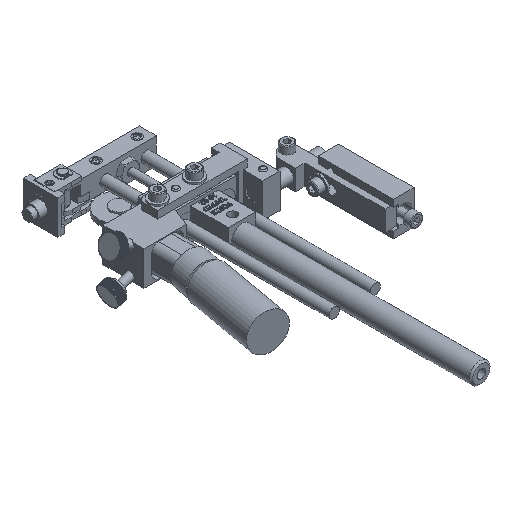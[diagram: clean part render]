
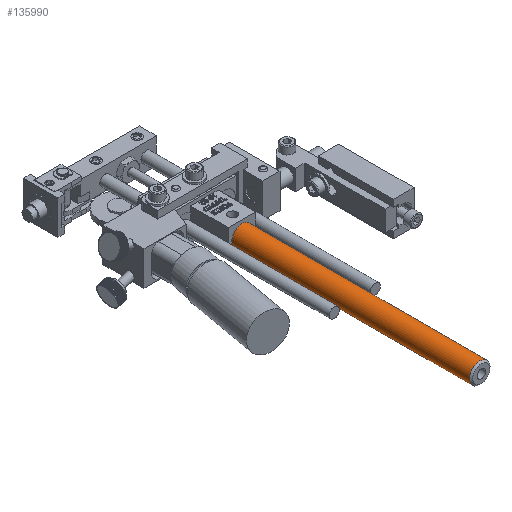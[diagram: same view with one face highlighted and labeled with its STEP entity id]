
A CAD part, isometric view. The second image highlights one B-rep face of the part: STEP entity #135990.
In plain terms, the highlighted cylindrical face has radius 4.763 mm (diameter 9.525 mm), a full revolution.
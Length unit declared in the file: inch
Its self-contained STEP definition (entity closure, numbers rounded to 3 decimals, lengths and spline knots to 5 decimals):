
#135766=CARTESIAN_POINT('',(0.44663,-2.32333,-0.04751));
#135767=VERTEX_POINT('',#135766);
#135768=CARTESIAN_POINT('',(0.44663,-2.32333,-0.23501));
#135769=DIRECTION('',(0.0,1.0,0.0));
#135770=DIRECTION('',(0.0,0.0,-1.0));
#135771=AXIS2_PLACEMENT_3D('',#135768,#135769,#135770);
#135772=CIRCLE('',#135771,0.1875);
#135773=EDGE_CURVE('',#135767,#135767,#135772,.T.);
#135971=CARTESIAN_POINT('',(0.44663,-2.32333,-0.23501));
#135972=DIRECTION('',(0.,-1.0,0.));
#135973=DIRECTION('',(0.0,0.0,-1.0));
#135974=AXIS2_PLACEMENT_3D('',#135971,#135972,#135973);
#135975=CYLINDRICAL_SURFACE('',#135974,0.1875);
#135976=ORIENTED_EDGE('',*,*,#135773,.F.);
#135977=EDGE_LOOP('',(#135976));
#135978=FACE_OUTER_BOUND('',#135977,.T.);
#135979=CARTESIAN_POINT('',(0.44663,-6.66833,-0.04751));
#135980=VERTEX_POINT('',#135979);
#135981=CARTESIAN_POINT('',(0.44663,-6.66833,-0.23501));
#135982=DIRECTION('',(0.0,-1.0,0.0));
#135983=DIRECTION('',(0.0,0.0,-1.0));
#135984=AXIS2_PLACEMENT_3D('',#135981,#135982,#135983);
#135985=CIRCLE('',#135984,0.1875);
#135986=EDGE_CURVE('',#135980,#135980,#135985,.T.);
#135987=ORIENTED_EDGE('',*,*,#135986,.F.);
#135988=EDGE_LOOP('',(#135987));
#135989=FACE_BOUND('',#135988,.T.);
#135990=ADVANCED_FACE('',(#135978,#135989),#135975,.T.);
